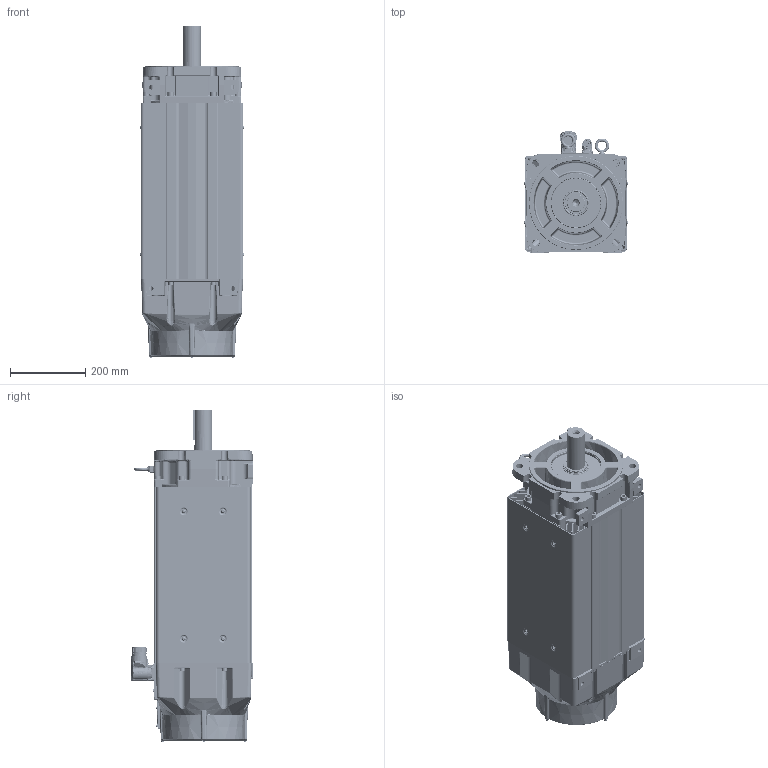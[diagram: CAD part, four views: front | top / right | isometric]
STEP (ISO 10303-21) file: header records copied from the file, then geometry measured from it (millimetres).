
FILE_DESCRIPTION((''),'2;1');
FILE_NAME('VPC-B30049-SJ74FX_ASM','2016-09-27T',('SRGaddam'),('Rockwell Automation'),'PRO/ENGINEER BY PARAMETRIC TECHNOLOGY CORPORATION, 2012480','PRO/ENGINEER BY PARAMETRIC TECHNOLOGY CORPORATION, 2012480','');
FILE_SCHEMA(('CONFIG_CONTROL_DESIGN'));
Products named in the file (42): 10001404634_AF0; 10001404629_AF6; 10001404635_ASM; 10001585735; 10001441960; 10001737030; 10001448102; 10001587021; 10001405269_AF12; 10001405240_AF25; 10001405367_ASM; 10001946256; 10001956852; 10001989665; 10001713549_ASM; M4X7X14-SOCHD-CAP-SCR; 10001978970; 10001336508; 10001587431; CH4X063; 10001299929; 10001284567; 10000172464; 10001445961; 221404-Q12; 10000231113; 10002279234; 10001443420_ASM; 10001609981; 0002-5004; 10001586887; 10001439772; 0011-2084; 142403; 125284; 142403-1_ASM; M940_ASM; 142414_623; 135798_623; 142414-1_623_ASM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
Assembly tree (81 placements, depth 4):
  VPC-B30049-SJ74FX_ASM
    10001404635_ASM
      10001404634_AF0
      10001404629_AF6
    10001585735  x8
    10001441960
    10001737030
    10001448102  x2
    10001587021  x8
    10001405367_ASM
      10001405269_AF12
      10001405240_AF25
    10001443420_ASM
      10001946256
      10001713549_ASM
        10001956852
        10001989665
      M4X7X14-SOCHD-CAP-SCR  x4
      10001978970
      10001336508
      10001587431
      CH4X063  x2
      10001299929
      10001284567
      10000172464  x4
      10001445961
      221404-Q12  x5
      10000231113
      10002279234
    10001609981
    0002-5004  x2
    10001586887  x6
    10001439772
    0011-2084
    M940_ASM
      142403-1_ASM
        142403
        125284
      221404-Q12  x4
    M623_ASM
      142414-1_623_ASM
        142414_623
        135798_623
      10000172464  x4
Bounding box: 275.91 x 324.15 x 882.35 mm (x, y, z)
Volume: 13894414.4 mm3; surface area: 3578456 mm2
Topology: 85 solids, 86 shells, 8042 faces, 19084 edges, 11471 vertices
Faces by surface type: cylinder 2443, plane 2249, bspline 1319, cone 1198, torus 685, sphere 142, extrusion 6
Entity records: 223631 total; most frequent: CARTESIAN_POINT 95272, ORIENTED_EDGE 27510, DIRECTION 25324, EDGE_CURVE 13755, AXIS2_PLACEMENT_3D 9773, VERTEX_POINT 8517, EDGE_LOOP 6204, VECTOR 5778
